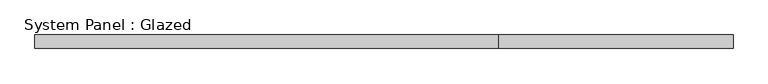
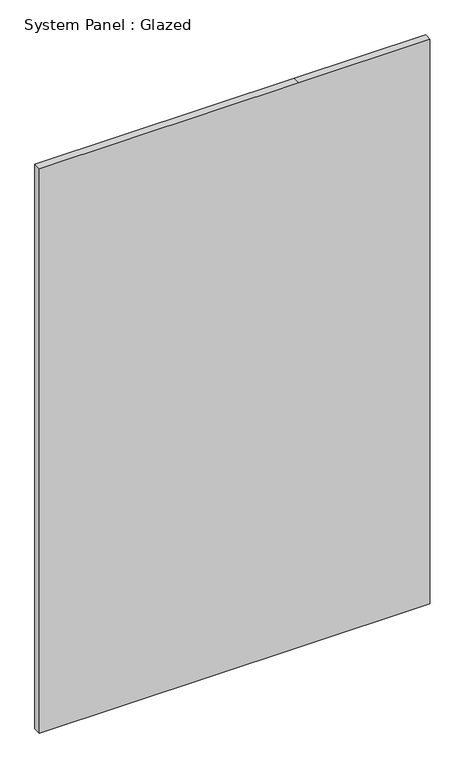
"""IFC4 building model written with IfcOpenShell, lengths in millimetres: plate geometry, System Panel : Glazed."""

from ifc_helpers import new_model, si_unit, frame, origin, place, context, project, spatial, polyline, outline, extrude, source, transform, mapped, element, save


def system_panel_glazed_e5b4937b(model_context):
    return source(origin(), model_context, "Body", "SweptSolid", [
        extrude(outline(polyline([(0.0, -643.17875), (0.0, 210.97875), (0.0, 643.17875), (1965.2, 643.17875), (1965.2, 210.97875), (1965.2, -643.17875), (0.0, -643.17875)])), frame((0.0, 24.5, 0.0), z_axis=(0.0, 1.0, 0.0), x_axis=(0.0, 0.0, 1.0)), (0.0, 0.0, 1.0), 25.0),
    ])


if __name__ == "__main__":
    model = new_model("IFC4")
    model_context = context("Model", 3, world=origin())
    ifc_project = project(units=[si_unit("LENGTHUNIT", "METRE", prefix="MILLI")], contexts=[model_context])
    site = spatial("IfcSite", under=ifc_project)
    building = spatial("IfcBuilding", under=site)
    placement = place(None, origin())
    system_panel_glazed_shape = system_panel_glazed_e5b4937b(model_context)
    element("IfcPlate", 1, ObjectType="System Panel : Glazed", at=placement, inside=building, context=model_context, shape_type="MappedRepresentation", body=[
        mapped(system_panel_glazed_shape, transform((0.0, 0.0, 0.0), x_axis=(1.0, 0.0, 0.0), y_axis=(0.0, 1.0, 0.0), z_axis=(0.0, 0.0, 1.0))),
    ])
    save(model, "model.ifc")
